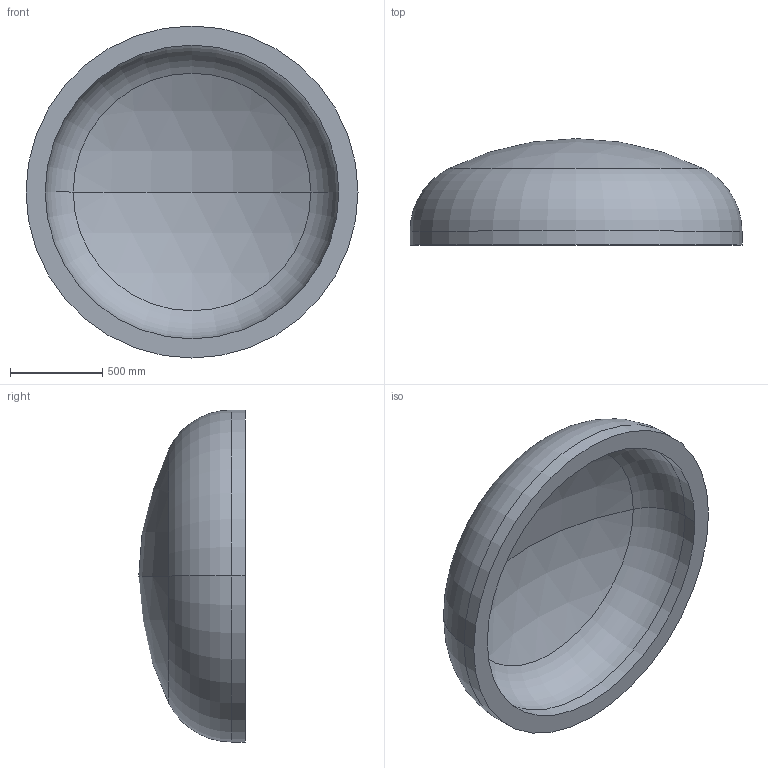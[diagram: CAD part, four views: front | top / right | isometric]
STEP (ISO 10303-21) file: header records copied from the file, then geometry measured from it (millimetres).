
FILE_DESCRIPTION (( 'STEP AP203' ), '1' );
FILE_NAME ('DIN 28013 Korbbogenform_-_Boden DIN 28013 - 1800 x 75 - I - s=104.step', '2016-07-01T12:46:15', ( '' ), ( '' ), 'SwSTEP 2.0', 'SolidWorks 2013', '' );
FILE_SCHEMA (( 'CONFIG_CONTROL_DESIGN' ));
Length unit declared in the file: millimetre
Products named in the file (1): DIN 28013 Korbbogenform_-_Boden DIN 28013 - 1800 x 75 - I - s=104
Bounding box: 1800 x 576.99 x 1800 mm (x, y, z)
Volume: 381466512.7 mm3; surface area: 7912672.2 mm2
Topology: 1 solids, 1 shells, 13 faces, 24 edges, 14 vertices
Faces by surface type: torus 4, cylinder 4, sphere 4, plane 1
Entity records: 407 total; most frequent: DIRECTION 72, CARTESIAN_POINT 52, ORIENTED_EDGE 48, AXIS2_PLACEMENT_3D 34, EDGE_CURVE 24, CIRCLE 20, VERTEX_POINT 14, EDGE_LOOP 14
